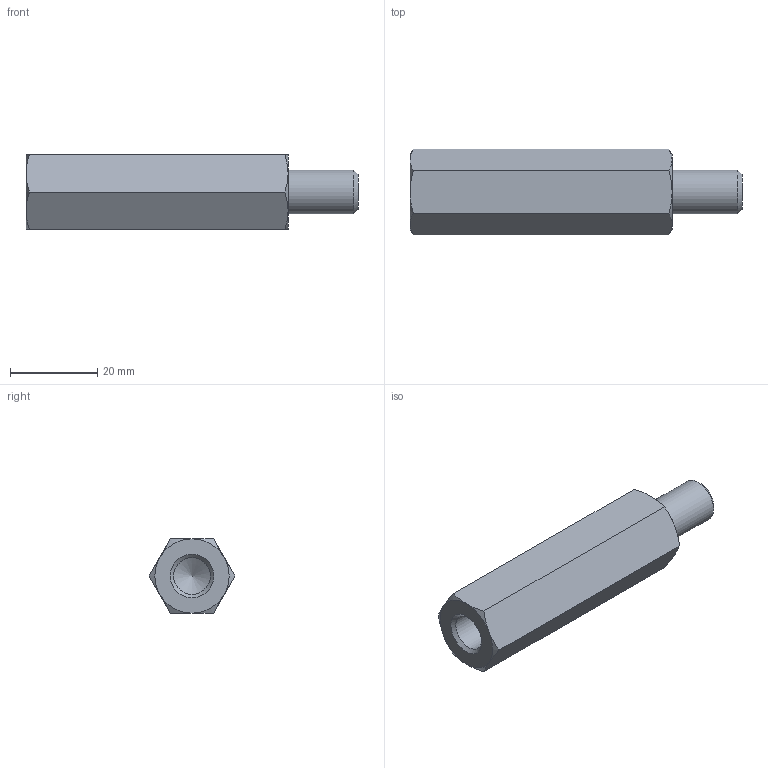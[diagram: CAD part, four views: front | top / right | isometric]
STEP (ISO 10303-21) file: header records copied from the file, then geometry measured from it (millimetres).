
FILE_DESCRIPTION( ( 'STEP AP203' ), '1' );
FILE_NAME( 'C:/Temp/Ganter_Step_05_03_2020/data/3_2/gn6220/gn6220_ni/Stainless Steel-Spacer GN 6220-NI-M10-60-B.stp', '2020-03-13T05:43:21', ( 'License CC BY-ND 4.0' ), ( 'CADENAS' ), ' ', 'PARTsolutions', ' ' );
FILE_SCHEMA( ( 'CONFIG_CONTROL_DESIGN' ) );
Length unit declared in the file: millimetre
Products named in the file (1): _Stainless Steel-Spacer GN 6220-NI-M10-60-B
Bounding box: 76 x 19.63 x 17 mm (x, y, z)
Volume: 14800.9 mm3; surface area: 5158.4 mm2
Topology: 1 solids, 1 shells, 26 faces, 55 edges, 32 vertices
Faces by surface type: cone 15, plane 9, cylinder 2
Full cylindrical faces by diameter (mm): 8.376 x1, 10 x1
Entity records: 778 total; most frequent: CARTESIAN_POINT 242, DIRECTION 96, ORIENTED_EDGE 96, EDGE_CURVE 48, AXIS2_PLACEMENT_3D 45, EDGE_LOOP 32, VERTEX_POINT 31, FACE_OUTER_BOUND 28
